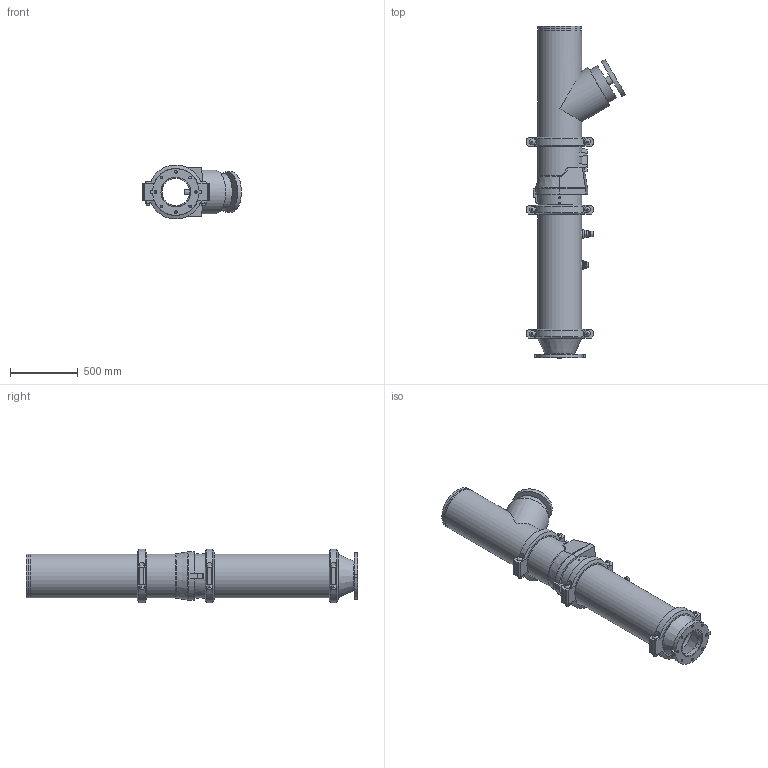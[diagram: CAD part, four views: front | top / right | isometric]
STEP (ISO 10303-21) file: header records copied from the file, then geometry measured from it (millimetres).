
FILE_DESCRIPTION(/* description */ ('VIC DVI PUMP DROP VERT S/383 (OGSxFLG) (S/924-0.75)','CAx-IF Rec.Pracs.---Representation and Presentation of Product Manufacturing Information (PMI)---4.0---2014-10-13'),/* implementation_level */ '2;1');
FILE_NAME(/* name */ 'C:\Users\Public\Documents\Victaulic.Temp\A849\Victaulic_IPS_Vertical DVI_CL 150_Series 383 (OGSxFLG)_924 (0.75)_12.0x08.0 (300x200).stp',/* time_stamp */ '2022-07-25T11:42:30+02:00',/* author */ ('Vjadhav'),/* organization */ ('Victaulic'),/* preprocessor_version */ 'ST-DEVELOPER v18',/* originating_system */ 'Autodesk Inventor 2020',/* authorisation */ '');
FILE_SCHEMA (('AP242_MANAGED_MODEL_BASED_3D_ENGINEERING_MIM_LF { 1 0 10303 442 1 1 4 }'));
Length unit declared in the file: inch
Products named in the file (9): 383_924 (0.75)-12.0x08.0; 741-08.0; 050-12.0x08.0; Pipe-12.0; 789-12.0; 779-12.0; 924-10.0x0.75; 923-10.0x0.75; 077-12.0
Assembly tree (10 placements, depth 2):
  383_924 (0.75)-12.0x08.0
    741-08.0
    050-12.0x08.0
    Pipe-12.0
    789-12.0
    779-12.0
    924-10.0x0.75
    923-10.0x0.75
    077-12.0  x3
Bounding box: 727.08 x 2443.23 x 397 mm (x, y, z)
Volume: 61557119.8 mm3; surface area: 6614798.7 mm2
Topology: 10 solids, 16 shells, 440 faces, 1098 edges, 752 vertices
Faces by surface type: plane 262, cylinder 145, cone 19, bspline 8, torus 6
Full cylindrical faces by diameter (mm): 13.716 x4, 19.05 x8, 21.336 x1, 25.4 x12, 26.67 x2, 27.432 x6, 38.608 x1, 45.974 x4, 55.626 x2, 60.96 x1, 76.2 x1, 202.717 x1, 214.401 x1, 219.075 x3, 273.05 x1, 299.974 x1, 303.225 x2, 304.8 x2, 314.96 x3, 318.287 x7, 323.85 x19
Entity records: 10909 total; most frequent: CARTESIAN_POINT 2107, DIRECTION 1803, ORIENTED_EDGE 1616, EDGE_CURVE 808, AXIS2_PLACEMENT_3D 692, VERTEX_POINT 556, LINE 419, VECTOR 419
